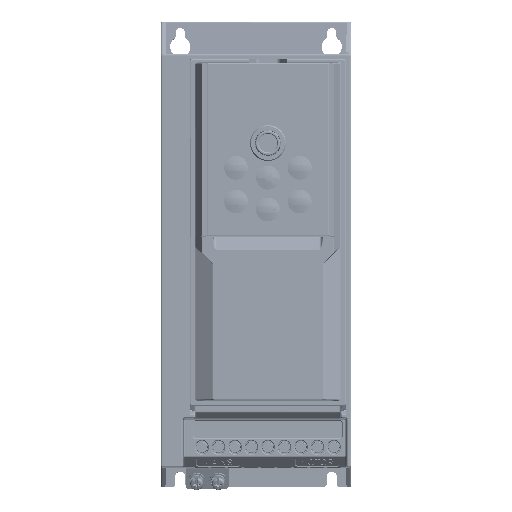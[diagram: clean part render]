
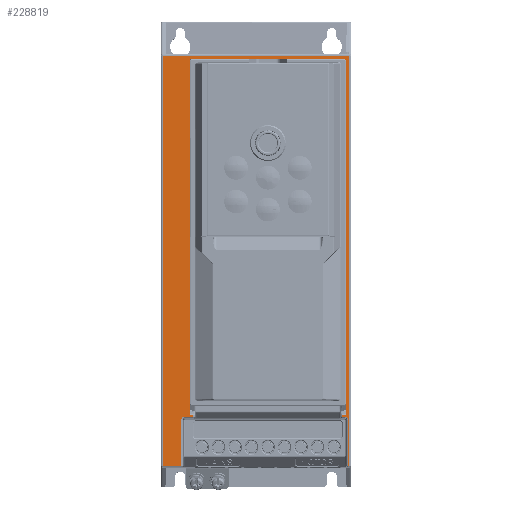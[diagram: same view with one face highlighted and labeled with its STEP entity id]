
A CAD part, top view. The second image highlights one B-rep face of the part: STEP entity #228819.
In plain terms, the highlighted planar face has unit normal (0, 0, 1).
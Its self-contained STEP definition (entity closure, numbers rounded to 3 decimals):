
#43489=DIRECTION('',(1.,0.,0.));
#43490=VECTOR('',#43489,1.685);
#43491=CARTESIAN_POINT('',(-36.119,-164.399,0.));
#43492=LINE('',#43491,#43490);
#43496=DIRECTION('',(0.,1.,0.));
#43497=VECTOR('',#43496,0.621);
#43498=CARTESIAN_POINT('',(-34.435,-165.02,0.));
#43499=LINE('',#43498,#43497);
#43503=DIRECTION('',(1.,0.,0.));
#43504=VECTOR('',#43503,3.945);
#43505=CARTESIAN_POINT('',(-38.38,-165.02,
0.));
#43506=LINE('',#43505,#43504);
#43510=CARTESIAN_POINT('',(-39.98,-166.62,0.));
#43511=CARTESIAN_POINT('',(-39.98,-166.446,
0.));
#43512=CARTESIAN_POINT('',(-39.925,-166.12,
0.));
#43513=CARTESIAN_POINT('',(-39.709,-165.688,
0.));
#43514=CARTESIAN_POINT('',(-39.377,-165.335,
0.));
#43515=CARTESIAN_POINT('',(-38.909,-165.08,
0.));
#43516=CARTESIAN_POINT('',(-38.565,-165.02,
0.));
#43517=CARTESIAN_POINT('',(-38.38,-165.02,
0.));
#43522=DIRECTION('',(0.,1.,0.));
#43523=VECTOR('',#43522,21.08);
#43524=CARTESIAN_POINT('',(-39.98,-187.7,0.));
#43525=LINE('',#43524,#43523);
#43529=DIRECTION('',(1.,0.,0.));
#43530=VECTOR('',#43529,8.72);
#43531=CARTESIAN_POINT('',(-48.7,-187.7,0.));
#43532=LINE('',#43531,#43530);
#43536=DIRECTION('',(0.,-1.,0.));
#43537=VECTOR('',#43536,189.4);
#43538=CARTESIAN_POINT('',(-48.7,1.7,0.));
#43539=LINE('',#43538,#43537);
#43543=DIRECTION('',(-1.,0.,0.));
#43544=VECTOR('',#43543,86.4);
#43545=CARTESIAN_POINT('',(37.7,1.7,0.));
#43546=LINE('',#43545,#43544);
#43550=DIRECTION('',(0.,1.,0.));
#43551=VECTOR('',#43550,189.4);
#43552=CARTESIAN_POINT('',(37.7,-187.7,0.));
#43553=LINE('',#43552,#43551);
#43557=DIRECTION('',(1.,0.,0.));
#43558=VECTOR('',#43557,0.62);
#43559=CARTESIAN_POINT('',(37.08,-187.7,0.));
#43560=LINE('',#43559,#43558);
#43564=DIRECTION('',(0.,-1.,0.));
#43565=VECTOR('',#43564,21.08);
#43566=CARTESIAN_POINT('',(37.08,-166.62,
0.));
#43567=LINE('',#43566,#43565);
#43571=CARTESIAN_POINT('',(35.48,-165.02,
0.));
#43572=CARTESIAN_POINT('',(35.654,-165.02,
0.));
#43573=CARTESIAN_POINT('',(35.98,-165.075,
0.));
#43574=CARTESIAN_POINT('',(36.412,-165.291,
0.));
#43575=CARTESIAN_POINT('',(36.765,-165.623,
0.));
#43576=CARTESIAN_POINT('',(37.02,-166.091,
0.));
#43577=CARTESIAN_POINT('',(37.08,-166.435,
0.));
#43578=CARTESIAN_POINT('',(37.08,-166.62,
0.));
#43583=DIRECTION('',(1.,0.,0.));
#43584=VECTOR('',#43583,1.045);
#43585=CARTESIAN_POINT('',(34.435,-165.02,0.));
#43586=LINE('',#43585,#43584);
#43590=DIRECTION('',(0.,-1.,0.));
#43591=VECTOR('',#43590,0.621);
#43592=CARTESIAN_POINT('',(34.435,-164.399,0.));
#43593=LINE('',#43592,#43591);
#43597=DIRECTION('',(-1.,0.,0.));
#43598=VECTOR('',#43597,1.685);
#43599=CARTESIAN_POINT('',(36.119,-164.399,0.));
#43600=LINE('',#43599,#43598);
#43604=DIRECTION('',(-1.,0.,0.));
#43605=VECTOR('',#43604,70.639);
#43606=CARTESIAN_POINT('',(35.319,0.119,0.));
#43607=LINE('',#43606,#43605);
#52979=CARTESIAN_POINT('',(34.435,-164.399,0.));
#53686=CARTESIAN_POINT('',(-34.435,-164.399,0.));
#140770=DIRECTION('',(0.,1.,0.));
#140771=VECTOR('',#140770,163.719);
#140772=CARTESIAN_POINT('',(-36.119,-164.399,0.));
#140773=LINE('',#140772,#140771);
#140808=CARTESIAN_POINT('',(-36.119,-0.681,0.));
#140809=CARTESIAN_POINT('',(-36.119,-0.414,0.));
#140810=CARTESIAN_POINT('',(-35.917,-0.083,0.));
#140811=CARTESIAN_POINT('',(-35.586,0.119,0.));
#140812=CARTESIAN_POINT('',(-35.319,0.119,0.));
#140831=CARTESIAN_POINT('',(35.319,0.119,0.));
#140832=CARTESIAN_POINT('',(35.586,0.119,0.));
#140833=CARTESIAN_POINT('',(35.917,-0.083,0.));
#140834=CARTESIAN_POINT('',(36.119,-0.414,0.));
#140835=CARTESIAN_POINT('',(36.119,-0.681,0.));
#140840=DIRECTION('',(0.,-1.,0.));
#140841=VECTOR('',#140840,163.719);
#140842=CARTESIAN_POINT('',(36.119,-0.681,0.));
#140843=LINE('',#140842,#140841);
#175847=CARTESIAN_POINT('',(-38.38,-165.02,
0.));
#175848=CARTESIAN_POINT('',(-34.435,-165.02,0.));
#175849=VERTEX_POINT('',#175847);
#175850=VERTEX_POINT('',#175848);
#175853=VERTEX_POINT('',#43510);
#175855=CARTESIAN_POINT('',(-39.98,-187.7,0.));
#175856=VERTEX_POINT('',#175855);
#175861=CARTESIAN_POINT('',(-48.7,-187.7,0.));
#175862=VERTEX_POINT('',#175861);
#175867=CARTESIAN_POINT('',(-48.7,1.7,0.));
#175868=VERTEX_POINT('',#175867);
#175873=CARTESIAN_POINT('',(37.7,1.7,0.));
#175874=VERTEX_POINT('',#175873);
#175879=CARTESIAN_POINT('',(37.7,-187.7,0.));
#175880=VERTEX_POINT('',#175879);
#175885=CARTESIAN_POINT('',(37.08,-187.7,0.));
#175886=VERTEX_POINT('',#175885);
#175891=CARTESIAN_POINT('',(37.08,-166.62,
0.));
#175892=VERTEX_POINT('',#175891);
#175895=VERTEX_POINT('',#43571);
#175897=CARTESIAN_POINT('',(34.435,-165.02,0.));
#175898=VERTEX_POINT('',#175897);
#176034=CARTESIAN_POINT('',(-36.119,-0.681,0.));
#176035=VERTEX_POINT('',#176034);
#176036=CARTESIAN_POINT('',(-35.319,0.119,0.));
#176037=VERTEX_POINT('',#176036);
#176040=CARTESIAN_POINT('',(35.319,0.119,0.));
#176041=VERTEX_POINT('',#176040);
#176042=CARTESIAN_POINT('',(36.119,-0.681,0.));
#176043=VERTEX_POINT('',#176042);
#176084=VERTEX_POINT('',#53686);
#176087=CARTESIAN_POINT('',(-36.119,-164.399,0.));
#176088=VERTEX_POINT('',#176087);
#176110=VERTEX_POINT('',#52979);
#176112=CARTESIAN_POINT('',(36.119,-164.399,0.));
#176113=VERTEX_POINT('',#176112);
#228772=CARTESIAN_POINT('',(0.,0.,0.));
#228773=DIRECTION('',(0.,0.,1.));
#228774=DIRECTION('',(1.,0.,0.));
#228775=AXIS2_PLACEMENT_3D('',#228772,#228773,#228774);
#228776=PLANE('',#228775);
#228778=ORIENTED_EDGE('',*,*,#228777,.T.);
#228780=ORIENTED_EDGE('',*,*,#228779,.F.);
#228782=ORIENTED_EDGE('',*,*,#228781,.F.);
#228784=ORIENTED_EDGE('',*,*,#228783,.F.);
#228786=ORIENTED_EDGE('',*,*,#228785,.F.);
#228788=ORIENTED_EDGE('',*,*,#228787,.F.);
#228790=ORIENTED_EDGE('',*,*,#228789,.F.);
#228792=ORIENTED_EDGE('',*,*,#228791,.F.);
#228794=ORIENTED_EDGE('',*,*,#228793,.F.);
#228796=ORIENTED_EDGE('',*,*,#228795,.F.);
#228798=ORIENTED_EDGE('',*,*,#228797,.F.);
#228800=ORIENTED_EDGE('',*,*,#228799,.F.);
#228802=ORIENTED_EDGE('',*,*,#228801,.F.);
#228804=ORIENTED_EDGE('',*,*,#228803,.F.);
#228806=ORIENTED_EDGE('',*,*,#228805,.F.);
#228808=ORIENTED_EDGE('',*,*,#228807,.F.);
#228810=ORIENTED_EDGE('',*,*,#228809,.F.);
#228812=ORIENTED_EDGE('',*,*,#228811,.T.);
#228814=ORIENTED_EDGE('',*,*,#228813,.F.);
#228816=ORIENTED_EDGE('',*,*,#228815,.F.);
#228817=EDGE_LOOP('',(#228778,#228780,#228782,#228784,#228786,#228788,#228790,
#228792,#228794,#228796,#228798,#228800,#228802,#228804,#228806,#228808,#228810,
#228812,#228814,#228816));
#228818=FACE_OUTER_BOUND('',#228817,.F.);
#228819=ADVANCED_FACE('',(#228818),#228776,.T.);
#43518=B_SPLINE_CURVE_WITH_KNOTS('',3,(#43510,#43511,#43512,#43513,#43514,
#43515,#43516,#43517),.UNSPECIFIED.,.F.,.F.,(4,1,1,1,1,4),(0.,0.2,0.4,
0.6,0.8,1.),.UNSPECIFIED.);
#43579=B_SPLINE_CURVE_WITH_KNOTS('',3,(#43571,#43572,#43573,#43574,#43575,
#43576,#43577,#43578),.UNSPECIFIED.,.F.,.F.,(4,1,1,1,1,4),(0.,0.2,0.4,
0.6,0.8,1.),.UNSPECIFIED.);
#140813=B_SPLINE_CURVE_WITH_KNOTS('',3,(#140808,#140809,#140810,#140811,
#140812),.UNSPECIFIED.,.F.,.F.,(4,1,4),(0.,0.5,1.),.UNSPECIFIED.);
#140836=B_SPLINE_CURVE_WITH_KNOTS('',3,(#140831,#140832,#140833,#140834,
#140835),.UNSPECIFIED.,.F.,.F.,(4,1,4),(0.,0.5,1.),.UNSPECIFIED.);
#228777=EDGE_CURVE('',#176088,#176084,#43492,.T.);
#228779=EDGE_CURVE('',#175850,#176084,#43499,.T.);
#228781=EDGE_CURVE('',#175849,#175850,#43506,.T.);
#228783=EDGE_CURVE('',#175853,#175849,#43518,.T.);
#228785=EDGE_CURVE('',#175856,#175853,#43525,.T.);
#228787=EDGE_CURVE('',#175862,#175856,#43532,.T.);
#228789=EDGE_CURVE('',#175868,#175862,#43539,.T.);
#228791=EDGE_CURVE('',#175874,#175868,#43546,.T.);
#228793=EDGE_CURVE('',#175880,#175874,#43553,.T.);
#228795=EDGE_CURVE('',#175886,#175880,#43560,.T.);
#228797=EDGE_CURVE('',#175892,#175886,#43567,.T.);
#228799=EDGE_CURVE('',#175895,#175892,#43579,.T.);
#228801=EDGE_CURVE('',#175898,#175895,#43586,.T.);
#228803=EDGE_CURVE('',#176110,#175898,#43593,.T.);
#228805=EDGE_CURVE('',#176113,#176110,#43600,.T.);
#228807=EDGE_CURVE('',#176043,#176113,#140843,.T.);
#228809=EDGE_CURVE('',#176041,#176043,#140836,.T.);
#228811=EDGE_CURVE('',#176041,#176037,#43607,.T.);
#228813=EDGE_CURVE('',#176035,#176037,#140813,.T.);
#228815=EDGE_CURVE('',#176088,#176035,#140773,.T.);
